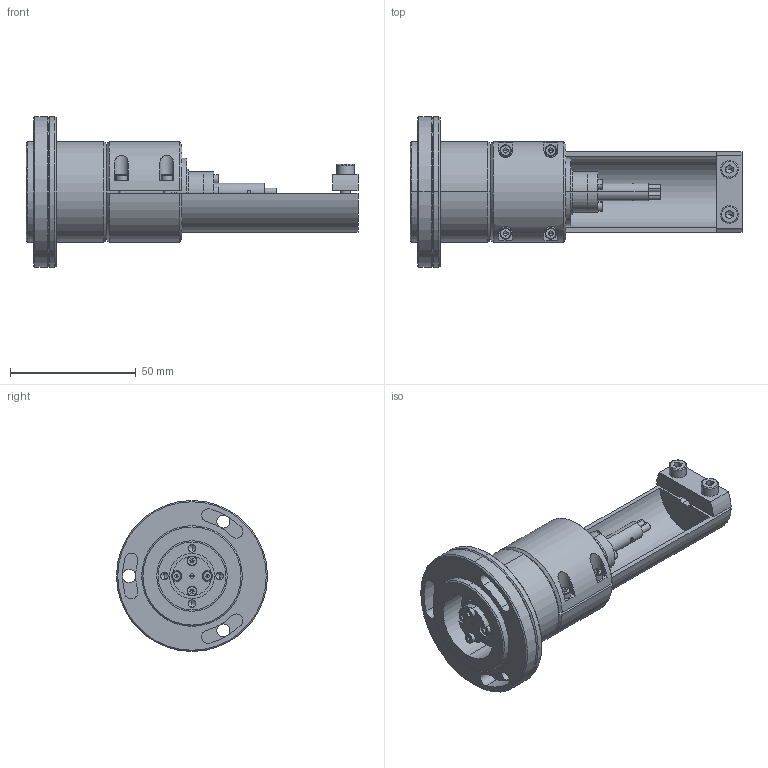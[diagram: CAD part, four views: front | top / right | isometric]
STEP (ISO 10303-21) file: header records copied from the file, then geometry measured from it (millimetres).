
FILE_DESCRIPTION (( 'STEP AP203' ), '1' );
FILE_NAME ('00.234.03-010.STEP', '2010-12-06T07:40:01', ( 'ladmin' ), ( '' ), 'SwSTEP 2.0', 'SolidWorks 2010', '' );
FILE_SCHEMA (( 'CONFIG_CONTROL_DESIGN' ));
Length unit declared in the file: millimetre
Products named in the file (31): 00.234.03-010; 00.234.03-900_01; 00.234.03-500_01; 00.234.03-510_01; 00.234.03-910_01; 00.234.03-950_01; 00.234.03-530_01; 00.234.03-520_01; 00.234.03-540_01; 00.234.03-920_01; 00.234.03-090_OHNE; 00.234.03-120_01; D_2239_01; 00.234.03-930_01; 00.234.03-060_01; 00.234.03-050_01; 00.234.03-080_01; 00.234.03-030_01; 00.234.03-110_01; 00.234.03-070_01; 00.234.03-040_01; 00.234.03-130_01; 00.234.03-140_01; 00.234.03-100_01; Zyl-Schr I-6kt BN 610_M 2 x 6; O-Ring 4x1.0_01; Zyl-Schr I-6kt BN 610_M 2,5 x 8; Zyl-Schr I-6kt BN 610_M 4 x 12 s; Zyl-Schr I-6kt BN 610_M 2 x 4; Senk-Schr I-6kt BN 616_M3 x 10; Zyl-Schr I-6kt BN 610_M 2 x 8
Assembly tree (42 placements, depth 4):
  00.234.03-010
    Zyl-Schr I-6kt BN 610_M 2 x 4  x2
    O-Ring 4x1.0_01
    00.234.03-030_01
    00.234.03-110_01  x2
    00.234.03-920_01
      D_2239_01
      00.234.03-120_01
      00.234.03-090_OHNE
    Zyl-Schr I-6kt BN 610_M 2,5 x 8  x4
    Senk-Schr I-6kt BN 616_M3 x 10
    00.234.03-070_01
    Zyl-Schr I-6kt BN 610_M 2 x 8  x6
    00.234.03-900_01
      00.234.03-500_01
      00.234.03-510_01
    00.234.03-040_01
    00.234.03-130_01
    00.234.03-100_01
    Zyl-Schr I-6kt BN 610_M 2 x 6  x2
    00.234.03-910_01
      00.234.03-540_01
      00.234.03-950_01
        00.234.03-520_01
        00.234.03-530_01
    Zyl-Schr I-6kt BN 610_M 4 x 12 s  x2
    00.234.03-080_01
    00.234.03-050_01
    00.234.03-140_01
    00.234.03-930_01
      00.234.03-060_01
Bounding box: 132 x 60 x 60 mm (x, y, z)
Volume: 96118.8 mm3; surface area: 52814.9 mm2
Topology: 40 solids, 40 shells, 965 faces, 2184 edges, 1310 vertices
Faces by surface type: cylinder 364, plane 361, cone 150, torus 76, sphere 14
Entity records: 22931 total; most frequent: CARTESIAN_POINT 4019, DIRECTION 3536, ORIENTED_EDGE 2900, AXIS2_PLACEMENT_3D 1452, EDGE_CURVE 1450, VERTEX_POINT 919, EDGE_LOOP 805, CIRCLE 756
